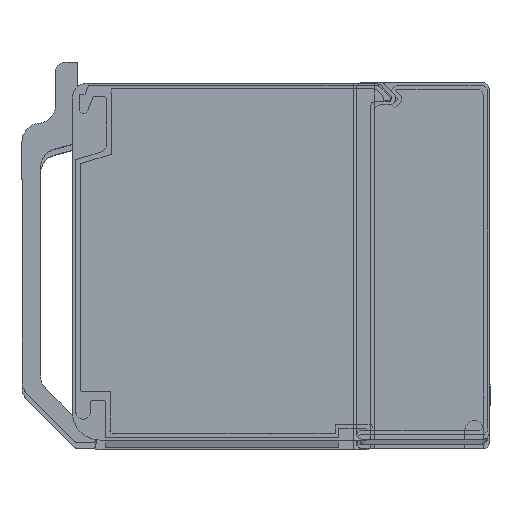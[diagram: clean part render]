
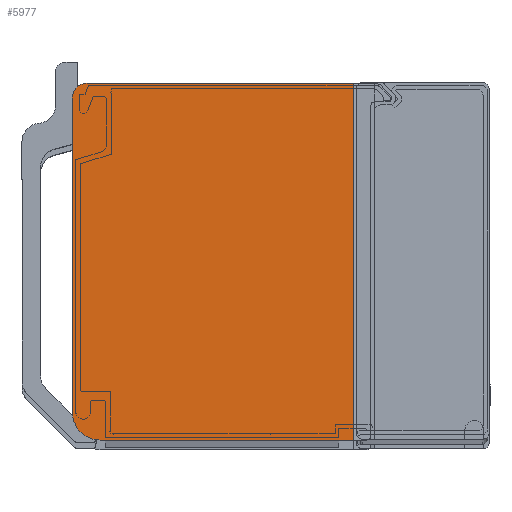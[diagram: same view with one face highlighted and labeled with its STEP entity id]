
A CAD part, top view. The second image highlights one B-rep face of the part: STEP entity #5977.
In plain terms, the highlighted planar face has unit normal (0, 0, 1).
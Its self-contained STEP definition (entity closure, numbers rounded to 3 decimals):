
#163 = CARTESIAN_POINT ( 'NONE',  ( 17.16, -8.3, 2980. ) ) ;
#668 = CARTESIAN_POINT ( 'NONE',  ( -133.84, 176.3, 2980. ) ) ;
#719 = CARTESIAN_POINT ( 'NONE',  ( -141.84, 6.7, 2980. ) ) ;
#1081 = EDGE_CURVE ( 'NONE', #9721, #6647, #10417, .T. ) ;
#1287 = VECTOR ( 'NONE', #7243, 1000. ) ;
#1319 = CARTESIAN_POINT ( 'NONE',  ( -141.84, 6.7, 2980. ) ) ;
#1358 = ORIENTED_EDGE ( 'NONE', *, *, #7612, .T. ) ;
#2232 = ORIENTED_EDGE ( 'NONE', *, *, #1081, .T. ) ;
#2326 = VERTEX_POINT ( 'NONE', #1319 ) ;
#2332 = VERTEX_POINT ( 'NONE', #6099 ) ;
#2469 = DIRECTION ( 'NONE',  ( 1., 0., 0. ) ) ;
#2623 = CARTESIAN_POINT ( 'NONE',  ( 10.16, 184.3, 2980. ) ) ;
#2681 = LINE ( 'NONE', #4874, #10258 ) ;
#2897 = EDGE_CURVE ( 'NONE', #6647, #2326, #10203, .T. ) ;
#2962 = EDGE_CURVE ( 'NONE', #3002, #2332, #3770, .T. ) ;
#3002 = VERTEX_POINT ( 'NONE', #10394 ) ;
#3094 = DIRECTION ( 'NONE',  ( -1., 0., 0. ) ) ;
#3187 = PLANE ( 'NONE',  #9514 ) ;
#3481 = LINE ( 'NONE', #2623, #1287 ) ;
#3628 = CARTESIAN_POINT ( 'NONE',  ( -126.84, 6.7, 2980. ) ) ;
#3770 = LINE ( 'NONE', #163, #5741 ) ;
#4143 = AXIS2_PLACEMENT_3D ( 'NONE', #668, #7099, #4208 ) ;
#4208 = DIRECTION ( 'NONE',  ( -1., 0., 0. ) ) ;
#4284 = DIRECTION ( 'NONE',  ( -1., 0., 0. ) ) ;
#4390 = CIRCLE ( 'NONE', #5767, 15. ) ;
#4874 = CARTESIAN_POINT ( 'NONE',  ( -133.84, 184.3, 2980. ) ) ;
#5153 = CARTESIAN_POINT ( 'NONE',  ( 21.16, 172.3, 2980. ) ) ;
#5412 = DIRECTION ( 'NONE',  ( 0., 0., 1. ) ) ;
#5741 = VECTOR ( 'NONE', #7648, 1000. ) ;
#5767 = AXIS2_PLACEMENT_3D ( 'NONE', #3628, #5412, #2469 ) ;
#5778 = ORIENTED_EDGE ( 'NONE', *, *, #2962, .T. ) ;
#5908 = CARTESIAN_POINT ( 'NONE',  ( -133.84, 184.3, 2980. ) ) ;
#5977 = ADVANCED_FACE ( 'NONE', ( #11588 ), #3187, .F. ) ;
#6099 = CARTESIAN_POINT ( 'NONE',  ( 10.16, -8.3, 2980. ) ) ;
#6101 = CARTESIAN_POINT ( 'NONE',  ( -141.84, 176.3, 2980. ) ) ;
#6647 = VERTEX_POINT ( 'NONE', #6101 ) ;
#7099 = DIRECTION ( 'NONE',  ( 0., 0., 1. ) ) ;
#7239 = ORIENTED_EDGE ( 'NONE', *, *, #7852, .T. ) ;
#7243 = DIRECTION ( 'NONE',  ( 0., -1., 0. ) ) ;
#7362 = CARTESIAN_POINT ( 'NONE',  ( 10.16, 184.3, 2980. ) ) ;
#7612 = EDGE_CURVE ( 'NONE', #10515, #9721, #2681, .T. ) ;
#7648 = DIRECTION ( 'NONE',  ( 1., 0., 0. ) ) ;
#7659 = EDGE_LOOP ( 'NONE', ( #5778, #7895, #1358, #2232, #9587, #7239 ) ) ;
#7852 = EDGE_CURVE ( 'NONE', #2326, #3002, #4390, .T. ) ;
#7895 = ORIENTED_EDGE ( 'NONE', *, *, #10581, .F. ) ;
#9514 = AXIS2_PLACEMENT_3D ( 'NONE', #5153, #9804, #4284 ) ;
#9587 = ORIENTED_EDGE ( 'NONE', *, *, #2897, .T. ) ;
#9721 = VERTEX_POINT ( 'NONE', #5908 ) ;
#9804 = DIRECTION ( 'NONE',  ( 0., 0., -1. ) ) ;
#10019 = DIRECTION ( 'NONE',  ( 0., -1., 0. ) ) ;
#10203 = LINE ( 'NONE', #719, #12000 ) ;
#10258 = VECTOR ( 'NONE', #3094, 1000. ) ;
#10394 = CARTESIAN_POINT ( 'NONE',  ( -126.84, -8.3, 2980. ) ) ;
#10417 = CIRCLE ( 'NONE', #4143, 8. ) ;
#10515 = VERTEX_POINT ( 'NONE', #7362 ) ;
#10581 = EDGE_CURVE ( 'NONE', #10515, #2332, #3481, .T. ) ;
#11588 = FACE_OUTER_BOUND ( 'NONE', #7659, .T. ) ;
#12000 = VECTOR ( 'NONE', #10019, 1000. ) ;
